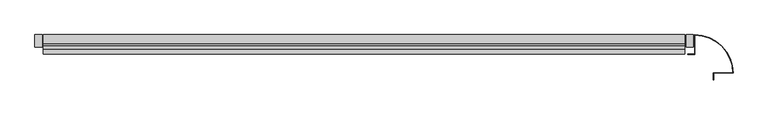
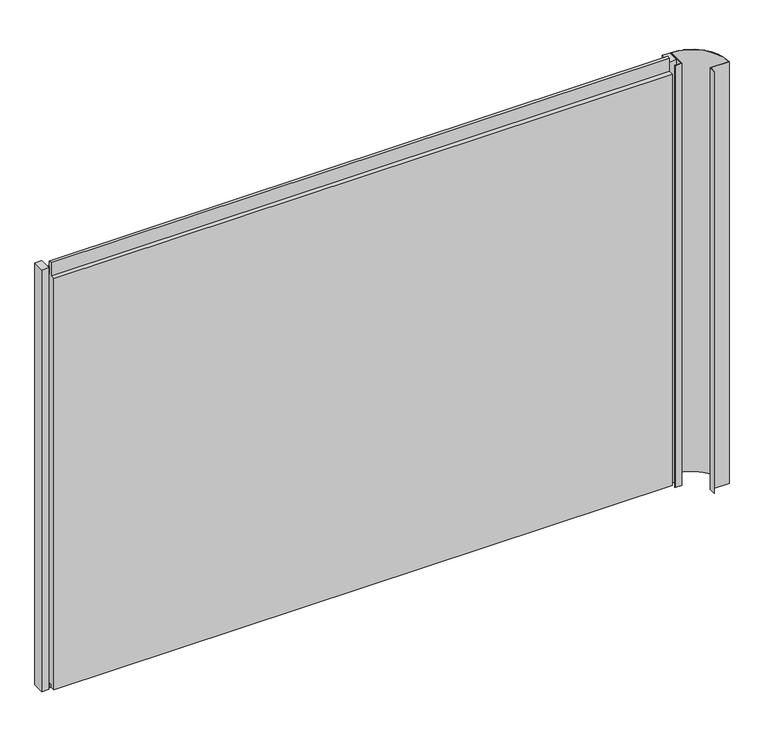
"""IFC4 building model written with IfcOpenShell, lengths in millimetres: plate geometry, Trimo_Qbiss Screen_Normal Panel-HORIZONTAL : HR - B-F."""

import ifcopenshell
import ifcopenshell.guid

model = None  # the IFC model being written
_history = None  # IfcOwnerHistory: only IFC2X3 demands one
_inside = {}  # id of a spatial element -> (the spatial element, [elements in it])
_under = {}  # id of a project, library or spatial element -> (it, [spatial elements below it])
_declared = {}  # id of a project -> (the project, [libraries it declares])
_typed = {}  # id of a type object -> (the type object, [elements of that type])
_made_of = {}  # id of a material, layer set ... -> (it, [elements and type objects made of it])


def new_model(schema):
    """Start an empty IFC model of exactly this schema.

    Asked for "IFC4X3", IfcOpenShell would pick the latest addendum, in which some entities
    have other attributes; the version numbers below select the first issue.
    IFC2X3 requires an IfcOwnerHistory on every rooted entity: one is made here for all.
    """
    global model, _history
    if schema == "IFC4X3":
        model = ifcopenshell.file(schema_version=(4, 3, 0, 0))
    else:
        model = ifcopenshell.file(schema=schema)
    _inside.clear()
    _under.clear()
    _declared.clear()
    _typed.clear()
    _made_of.clear()
    _history = None
    if model.schema == "IFC2X3":
        org = make("IfcOrganization", Name="unknown")
        user = make(
            "IfcPersonAndOrganization",
            ThePerson=make("IfcPerson", FamilyName="unknown"),
            TheOrganization=org,
        )
        app = make(
            "IfcApplication",
            ApplicationDeveloper=org,
            Version="unknown",
            ApplicationFullName="unknown",
            ApplicationIdentifier="unknown",
        )
        _history = make(
            "IfcOwnerHistory",
            OwningUser=user,
            OwningApplication=app,
            ChangeAction="ADDED",
            CreationDate=0,
        )
    return model


def make(cls, **values):
    """One entity of the class cls with the attributes given. An attribute that is None is left unset."""
    return model.create_entity(
        cls, **{name: value for name, value in values.items() if value is not None}
    )


def rooted(cls, **values):
    """An entity with a GlobalId (a new one), such as an element, a storey or a relation."""
    return make(cls, GlobalId=ifcopenshell.guid.new(), OwnerHistory=_history, **values)


def si_unit(unit_type, name, prefix=None):
    """IfcSIUnit, for example si_unit("LENGTHUNIT", "METRE", prefix="MILLI")."""
    return make("IfcSIUnit", UnitType=unit_type, Prefix=prefix, Name=name)


def assignment(units):
    """IfcUnitAssignment: the units of a project."""
    return None if units is None else make("IfcUnitAssignment", Units=units)


def point(xyz):
    """IfcCartesianPoint."""
    return None if xyz is None else make("IfcCartesianPoint", Coordinates=xyz)


def direction(xyz):
    """IfcDirection."""
    return None if xyz is None else make("IfcDirection", DirectionRatios=xyz)


def frame(location, z_axis=None, x_axis=None):
    """IfcAxis2Placement3D, a coordinate frame: its origin and axes. An axis left out is left unset."""
    return make(
        "IfcAxis2Placement3D",
        Location=point(location),
        Axis=direction(z_axis),
        RefDirection=direction(x_axis),
    )


def frame_2d(location, x_axis=None):
    """IfcAxis2Placement2D, a coordinate frame in the plane: its origin and x axis."""
    return make(
        "IfcAxis2Placement2D", Location=point(location), RefDirection=direction(x_axis)
    )


def origin():
    """The frame at (0, 0, 0) with its axes left unset."""
    return frame((0.0, 0.0, 0.0))


def place(relative_to, where):
    """IfcLocalPlacement: puts the frame where relative to a parent placement (None: the world)."""
    return make(
        "IfcLocalPlacement", PlacementRelTo=relative_to, RelativePlacement=where
    )


def context(
    kind, dimensions, precision=None, world=None, true_north=None, identifier=None
):
    """IfcGeometricRepresentationContext, for example the 3D "Model" context."""
    return make(
        "IfcGeometricRepresentationContext",
        ContextIdentifier=identifier,
        ContextType=kind,
        CoordinateSpaceDimension=dimensions,
        Precision=precision,
        WorldCoordinateSystem=world,
        TrueNorth=true_north,
    )


def project(units=None, contexts=None):
    """IfcProject with its units and contexts."""
    return rooted(
        "IfcProject",
        Name="project",
        RepresentationContexts=contexts,
        UnitsInContext=assignment(units),
    )


def spatial(cls, under=None, at=None, **own):
    """A site, building, storey or space (cls), placed at a placement, below another one or the project."""
    s = rooted(cls, ObjectPlacement=at, **own)
    if under is not None:
        _under.setdefault(under.id(), (under, []))[1].append(s)
    return s


def polyline(points):
    """IfcPolyline through the points."""
    return make("IfcPolyline", Points=[point(p) for p in points])


def circle_curve(where, radius):
    """IfcCircle in the frame where."""
    return make("IfcCircle", Position=where, Radius=radius)


def trimmed(basis, trim1, trim2, sense, master):
    """IfcTrimmedCurve: the piece of a basis curve between two trims."""
    return make(
        "IfcTrimmedCurve",
        BasisCurve=basis,
        Trim1=trim1,
        Trim2=trim2,
        SenseAgreement=sense,
        MasterRepresentation=master,
    )


def segment(curve, same_sense, transition):
    """IfcCompositeCurveSegment."""
    return make(
        "IfcCompositeCurveSegment",
        Transition=transition,
        SameSense=same_sense,
        ParentCurve=curve,
    )


def composite_curve(segments, self_intersect=None):
    """IfcCompositeCurve: segments joined end to end."""
    return make("IfcCompositeCurve", Segments=segments, SelfIntersect=self_intersect)


def outline(outer, holes=None, kind="AREA"):
    """IfcArbitraryClosedProfileDef: a profile drawn as a closed curve; with holes, ...WithVoids."""
    if holes is None:
        return make("IfcArbitraryClosedProfileDef", ProfileType=kind, OuterCurve=outer)
    return make(
        "IfcArbitraryProfileDefWithVoids",
        ProfileType=kind,
        OuterCurve=outer,
        InnerCurves=holes,
    )


def extrude(swept, where, along, depth):
    """IfcExtrudedAreaSolid: the profile swept, set in the frame where, extruded along a direction by depth."""
    return make(
        "IfcExtrudedAreaSolid",
        SweptArea=swept,
        Position=where,
        ExtrudedDirection=direction(along),
        Depth=depth,
    )


def shape(context_of_items, identifier, shape_type, items):
    """IfcShapeRepresentation: the items that make up one representation, for example the "Body"."""
    return make(
        "IfcShapeRepresentation",
        ContextOfItems=context_of_items,
        RepresentationIdentifier=identifier,
        RepresentationType=shape_type,
        Items=items,
    )


def source(mapping_origin, context_of_items, identifier, shape_type, items):
    """IfcRepresentationMap: a shape defined once, which mapped items show again and again."""
    return make(
        "IfcRepresentationMap",
        MappingOrigin=mapping_origin,
        MappedRepresentation=shape(context_of_items, identifier, shape_type, items),
    )


def transform(
    local_origin,
    x_axis=None,
    y_axis=None,
    z_axis=None,
    scale=None,
    scale2=None,
    scale3=None,
    uniform=True,
):
    """IfcCartesianTransformationOperator3D, or its non-uniform kind. x_axis, y_axis, z_axis: its Axis1, 2, 3."""
    if uniform:
        return make(
            "IfcCartesianTransformationOperator3D",
            Axis1=direction(x_axis),
            Axis2=direction(y_axis),
            LocalOrigin=point(local_origin),
            Scale=scale,
            Axis3=direction(z_axis),
        )
    return make(
        "IfcCartesianTransformationOperator3DnonUniform",
        Axis1=direction(x_axis),
        Axis2=direction(y_axis),
        LocalOrigin=point(local_origin),
        Scale=scale,
        Axis3=direction(z_axis),
        Scale2=scale2,
        Scale3=scale3,
    )


def mapped(mapping_source, mapping_target):
    """IfcMappedItem: shows the shape of a source again, moved by a transform."""
    return make(
        "IfcMappedItem", MappingSource=mapping_source, MappingTarget=mapping_target
    )


def made_of(thing, what):
    """Note that an element or type object is made of a material, layer set ...; save() writes the relation."""
    if what is not None:
        _made_of.setdefault(what.id(), (what, []))[1].append(thing)
    return thing


def element(
    cls,
    number,
    at=None,
    inside=None,
    cuts=None,
    type_object=None,
    material=None,
    context=None,
    identifier="Body",
    shape_type=None,
    held_by="IfcProductDefinitionShape",
    body=None,
    shapes=None,
    **own,
):
    """One element of the class cls, such as IfcWall. Its Tag is "e" and its number.

    at: its placement. inside: the storey or other place that contains it. cuts: it is an
    opening in that element (IfcRelVoidsElement). A single representation is given by context,
    identifier, shape_type and body (its items); several are given by shapes. held_by: the class
    of the entity that holds the representations. save() writes the other relations.
    """
    e = rooted(cls, Tag="e%d" % number, ObjectPlacement=at, **own)
    if body is not None:
        shapes = [shape(context, identifier, shape_type, body)]
    if shapes is not None:
        e.Representation = make(held_by, Representations=shapes)
    if inside is not None:
        _inside.setdefault(inside.id(), (inside, []))[1].append(e)
    if cuts is not None:
        rooted(
            "IfcRelVoidsElement", RelatingBuildingElement=cuts, RelatedOpeningElement=e
        )
    if type_object is not None:
        _typed.setdefault(type_object.id(), (type_object, []))[1].append(e)
    return made_of(e, material)


def aggregate(whole, parts):
    """IfcRelAggregates: a whole, such as a stair, and the parts it consists of."""
    return rooted("IfcRelAggregates", RelatingObject=whole, RelatedObjects=parts)


def save(model, path):
    """Write the relations noted so far, then the file.

    IfcRelAggregates (storeys below a building ...), IfcRelContainedInSpatialStructure (elements
    in a storey), IfcRelDefinesByType, IfcRelAssociatesMaterial and IfcRelDeclares: one each for
    every whole, place, type object, material and project.
    """
    for whole, parts in _under.values():
        aggregate(whole, parts)
    for where, things in _inside.values():
        rooted(
            "IfcRelContainedInSpatialStructure",
            RelatedElements=things,
            RelatingStructure=where,
        )
    for kind, things in _typed.values():
        rooted("IfcRelDefinesByType", RelatedObjects=things, RelatingType=kind)
    for what, things in _made_of.values():
        rooted("IfcRelAssociatesMaterial", RelatedObjects=things, RelatingMaterial=what)
    for by, libraries in _declared.values():
        rooted("IfcRelDeclares", RelatingContext=by, RelatedDefinitions=libraries)
    model.write(path)


def plate_4a609bfb(model_context):
    return source(origin(), model_context, "Body", "SweptSolid", [
        extrude(outline(polyline([(-840.5, 67.8978162), (-859.5, 67.8978162), (-859.5, 100.0), (-840.5, 100.0), (-840.5, 67.8978162)])), frame((0.0, 0.0, -1.0), z_axis=(0.0, 0.0, 1.0), x_axis=(1.0, 0.0, 0.0)), (0.0, 0.0, 1.0), 1200.0),
        extrude(outline(polyline([(847.0, 67.8978162), (828.0, 67.8978162), (828.0, 100.0), (847.0, 100.0), (847.0, 67.8978162)])), frame((0.0, 0.0, -1.0), z_axis=(0.0, 0.0, 1.0), x_axis=(1.0, 0.0, 0.0)), (0.0, 0.0, 1.0), 1200.0),
        extrude(outline(polyline([(825.0, 76.0), (825.0, 71.0), (-837.5, 71.0), (-837.5, 76.0), (825.0, 76.0)])), frame((0.0, 0.0, 1178.0), z_axis=(0.0, 0.0, 1.0), x_axis=(1.0, 0.0, 0.0)), (0.0, 0.0, 1.0), 21.0),
        extrude(outline(polyline([(71.0, 1177.0), (100.0, 1177.0), (100.0, 0.0), (72.0, 0.0), (72.0, 15.5), (62.0, 15.5), (62.0, 7.0), (50.0, 7.0), (50.0, 1177.0), (63.0, 1177.0), (63.0, 1214.5), (71.0, 1214.5), (71.0, 1177.0)])), frame((-837.5, 0.0, 0.0), z_axis=(1.0, 0.0, 0.0), x_axis=(0.0, 1.0, 0.0)), (0.0, 0.0, 1.0), 1662.5),
        extrude(outline(composite_curve([segment(polyline([(850.0, 50.0), (850.0, 100.0)]), True, "CONTINUOUS"), segment(trimmed(circle_curve(frame_2d((850.0, 0.0)), 100.0), [point((850.0, 100.0))], [point((950.0, 0.0))], False, "CARTESIAN"), True, "CONTINUOUS"), segment(polyline([(950.0, 0.0), (900.0, 0.0), (900.0, -17.5), (899.2, -17.5), (899.2, 0.8), (949.1967741, 0.8)]), True, "CONTINUOUS"), segment(trimmed(circle_curve(frame_2d((850.0, 0.0)), 99.2), [point((949.1967741, 0.8))], [point((850.8, 99.1967741))], True, "CARTESIAN"), True, "CONTINUOUS"), segment(polyline([(850.8, 99.1967741), (850.8, 49.2), (832.5, 49.2), (832.5, 50.0), (850.0, 50.0)]), True, "CONTINUOUS")], self_intersect=False)), frame((0.0, 0.0, -1.0), z_axis=(0.0, 0.0, 1.0), x_axis=(1.0, 0.0, 0.0)), (0.0, 0.0, 1.0), 1200.0),
    ])


if __name__ == "__main__":
    model = new_model("IFC4")
    model_context = context("Model", 3, world=origin())
    ifc_project = project(units=[si_unit("LENGTHUNIT", "METRE", prefix="MILLI")], contexts=[model_context])
    site = spatial("IfcSite", under=ifc_project)
    building = spatial("IfcBuilding", under=site)
    placement = place(None, origin())
    plate_shape = plate_4a609bfb(model_context)
    element("IfcPlate", 1, ObjectType="Trimo_Qbiss Screen_Normal Panel-HORIZONTAL : HR - B-F", at=placement, inside=building, context=model_context, shape_type="MappedRepresentation", body=[
        mapped(plate_shape, transform((0.0, 0.0, 0.0), x_axis=(1.0, 0.0, 0.0), y_axis=(0.0, 1.0, 0.0), z_axis=(0.0, 0.0, 1.0))),
    ])
    save(model, "model.ifc")
